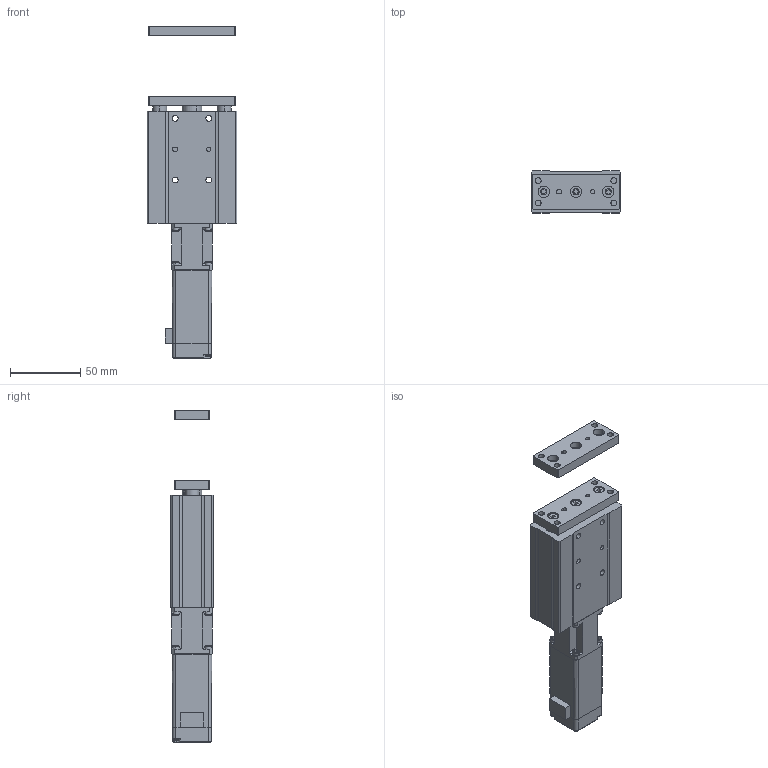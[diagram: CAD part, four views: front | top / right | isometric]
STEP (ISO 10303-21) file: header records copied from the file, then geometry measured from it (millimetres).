
FILE_DESCRIPTION (( 'STEP AP203' ), '1' );
FILE_NAME ('CSSG16-xx-50-xx-CSO-xx-xx.STEP', '2024-10-18T07:01:20', ( 'Windows User' ), ( 'P R C' ), 'SwSTEP 2.0', 'SolidWorks 2018', '' );
FILE_SCHEMA (( 'CONFIG_CONTROL_DESIGN' ));
Length unit declared in the file: millimetre
Products named in the file (10): 复件 内六角杯头螺钉M2.5-8^SSG16（ST=50）外形尺寸装配体; 复件 SVS-WS-RB24031-P006  安装板^SSG16（ST=50）外形尺寸装配体; 复件 SVS-WS-RB24031-P003  导杆（ST=50）^SSG16（ST=50）外形尺寸装配体; 复件 内六角杯头螺钉M2.5-6^SSG16（ST=50）外形尺寸装配体; 复件 SVS-WS-RB24031-P001-02  FRAME （ST=50）^SSG16（ST=50）外形尺寸装配体; 复件 SVS-WS-RB24031-P005  电机座^SSG16（ST=50）外形尺寸装配体; 复件 SVS-WS-RB24031-P002 空心圆杆 （ST=50）^SSG16（ST=50）外形尺寸装配体; 复件 (2) 28闭环步进电机-客用3D^SSG16（ST=50）外形尺寸装配体; CSSG16-xx-50-xx-CSO-xx-xx; 复件 内六角杯头螺钉M4-8^SSG16（ST=50）外形尺寸装配体
Assembly tree (19 placements, depth 2):
  CSSG16-xx-50-xx-CSO-xx-xx
    复件 SVS-WS-RB24031-P001-02  FRAME （ST=50）^SSG16（ST=50）外形尺寸装配体
    复件 SVS-WS-RB24031-P002 空心圆杆 （ST=50）^SSG16（ST=50）外形尺寸装配体
    复件 SVS-WS-RB24031-P003  导杆（ST=50）^SSG16（ST=50）外形尺寸装配体  x2
    复件 SVS-WS-RB24031-P005  电机座^SSG16（ST=50）外形尺寸装配体
    复件 SVS-WS-RB24031-P006  安装板^SSG16（ST=50）外形尺寸装配体  x2
    复件 (2) 28闭环步进电机-客用3D^SSG16（ST=50）外形尺寸装配体
    复件 内六角杯头螺钉M2.5-8^SSG16（ST=50）外形尺寸装配体  x4
    复件 内六角杯头螺钉M4-8^SSG16（ST=50）外形尺寸装配体  x3
    复件 内六角杯头螺钉M2.5-6^SSG16（ST=50）外形尺寸装配体  x4
Bounding box: 64 x 30 x 237.1 mm (x, y, z)
Volume: 241201.1 mm3; surface area: 49943.8 mm2
Topology: 21 solids, 22 shells, 557 faces, 1304 edges, 827 vertices
Faces by surface type: plane 258, cylinder 190, cone 55, torus 46, bspline 8
Entity records: 12035 total; most frequent: CARTESIAN_POINT 2189, DIRECTION 1874, ORIENTED_EDGE 1690, EDGE_CURVE 845, AXIS2_PLACEMENT_3D 699, VERTEX_POINT 545, LINE 476, VECTOR 476
